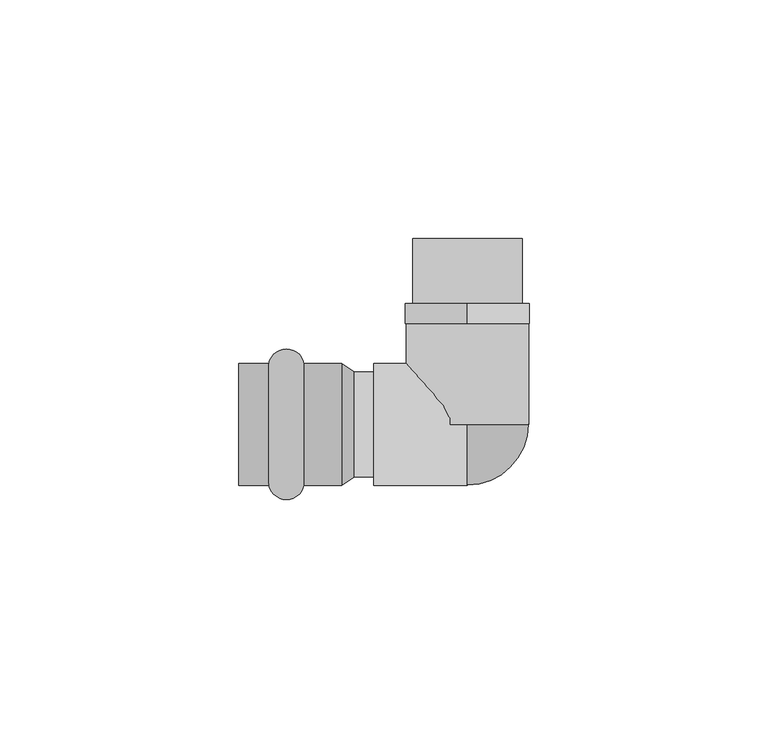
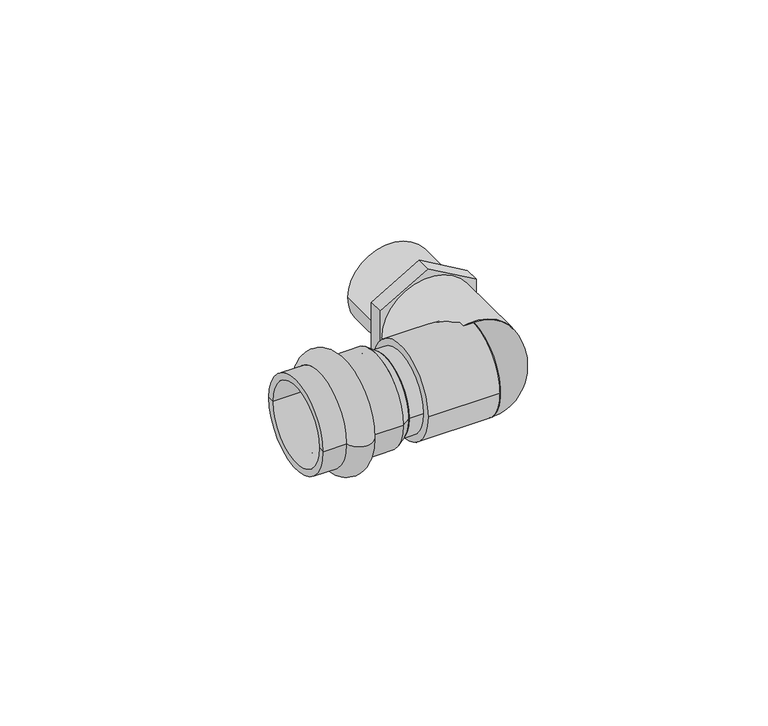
"""IFC4 building model written with IfcOpenShell, lengths in millimetres: pipe fitting geometry, VALTEC_VTi.953.I_Угольник с переходом на наружную резьбу нержавеющая сталь : VTi.953.I."""

from ifc_helpers import new_model, si_unit, point, frame, origin, origin_2d, place, context, project, spatial, polyline, circle_curve, ellipse_curve, trimmed, segment, composite_curve, outline, extrude, source, transform, mapped, element, save
from ifc_brep_helpers import plane_surface, cylinder_surface, revolved_surface, advanced_brep


def pipe_fitting_8c2fd16f(model_context):
    return source(origin(), model_context, "Body", "SolidModel", [
        advanced_brep(
        [(-41.6242346, -12.8, 0.0), (-41.6242346, 12.8, 0.0), (-34.2757654, 12.8, 0.0), (-34.2757654, -12.8, 0.0), (-48.0, -12.8, 0.0), (-48.0, 12.8, 0.0), (-48.0, -11.0, 0.0), (-48.0, 11.0, 0.0), (-26.4, -11.0, 0.0), (-26.4, 11.0, 0.0), (-26.4, -12.8, 0.0), (-26.4, 12.8, 0.0)],
        [
            (0, 1, circle_curve(frame((-41.6242346, 0.0, 0.0), z_axis=(1.0, 0.0, 0.0), x_axis=(0.0, 1.0, 0.0)), 12.8)),
            (1, 2, circle_curve(frame((-37.95, 12.05, 0.0), z_axis=(0.0, 0.0, -1.0), x_axis=(1.0, 0.0, 0.0)), 3.75)),
            (2, 3, circle_curve(frame((-34.2757654, 0.0, 0.0), z_axis=(-1.0, 0.0, 0.0), x_axis=(0.0, 1.0, 0.0)), 12.8)),
            (3, 0, circle_curve(frame((-37.95, -12.05, 0.0), z_axis=(0.0, 0.0, -1.0), x_axis=(1.0, 0.0, 0.0)), 3.75)),
            (1, 0, circle_curve(frame((-41.6242346, 0.0, 0.0), z_axis=(1.0, 0.0, 0.0), x_axis=(0.0, 1.0, 0.0)), 12.8)),
            (3, 2, circle_curve(frame((-34.2757654, 0.0, 0.0), z_axis=(-1.0, 0.0, 0.0), x_axis=(0.0, 1.0, 0.0)), 12.8)),
            (4, 5, circle_curve(frame((-48.0, 0.0, 0.0), z_axis=(1.0, 0.0, 0.0), x_axis=(0.0, 1.0, 0.0)), 12.8)),
            (5, 1),
            (0, 4),
            (5, 4, circle_curve(frame((-48.0, 0.0, 0.0), z_axis=(1.0, 0.0, 0.0), x_axis=(0.0, 1.0, 0.0)), 12.8)),
            (6, 7, circle_curve(frame((-48.0, 0.0, 0.0), z_axis=(1.0, 0.0, 0.0), x_axis=(0.0, 1.0, 0.0)), 11.0)),
            (7, 5),
            (4, 6),
            (7, 6, circle_curve(frame((-48.0, 0.0, 0.0), z_axis=(1.0, 0.0, 0.0), x_axis=(0.0, 1.0, 0.0)), 11.0)),
            (8, 9, circle_curve(frame((-26.4, 0.0, 0.0), z_axis=(1.0, 0.0, 0.0), x_axis=(0.0, 1.0, 0.0)), 11.0)),
            (9, 7),
            (6, 8),
            (9, 8, circle_curve(frame((-26.4, 0.0, 0.0), z_axis=(1.0, 0.0, 0.0), x_axis=(0.0, 1.0, 0.0)), 11.0)),
            (10, 11, circle_curve(frame((-26.4, 0.0, 0.0), z_axis=(1.0, 0.0, 0.0), x_axis=(0.0, 1.0, 0.0)), 12.8)),
            (11, 9),
            (8, 10),
            (11, 10, circle_curve(frame((-26.4, 0.0, 0.0), z_axis=(1.0, 0.0, 0.0), x_axis=(0.0, 1.0, 0.0)), 12.8)),
            (2, 11),
            (10, 3),
        ],
        [
            revolved_surface(trimmed(ellipse_curve(frame((-37.95, 12.05, 0.0), z_axis=(0.0, 0.0, 1.0), x_axis=(1.0, 0.0, 0.0)), 3.75, 3.75), [point((-34.2757654, 12.8, 0.0))], [point((-41.6242346, 12.8, 0.0))], True, "CARTESIAN"), (-51.5364426, 0.0, 0.0), (-1.0, 0.0, 0.0)),
            cylinder_surface(frame((-51.5364426, 0.0, 0.0), z_axis=(-1.0, 0.0, 0.0), x_axis=(0.0, 1.0, 0.0)), 12.8),
            plane_surface(frame((-48.0, 0.0, 0.0), z_axis=(-1.0, 0.0, 0.0), x_axis=(0.0, 1.0, 0.0))),
            revolved_surface(polyline([(-48.0, 11.0, 0.0), (-26.4, 11.0, 0.0)]), (-51.5364426, 0.0, 0.0), (-1.0, 0.0, 0.0)),
            plane_surface(frame((-26.4, 0.0, 0.0), z_axis=(1.0, 0.0, 0.0), x_axis=(0.0, 1.0, 0.0))),
        ],
        [
            (0, [[1, 2, 3, 4]]),
            (0, [[5, -4, 6, -2]]),
            (1, [[7, 8, -1, 9]]),
            (1, [[10, -9, -5, -8]]),
            (2, [[11, 12, -7, 13]]),
            (2, [[14, -13, -10, -12]]),
            (3, [[15, 16, -11, 17]]),
            (3, [[18, -17, -14, -16]]),
            (4, [[19, 20, -15, 21]]),
            (4, [[22, -21, -18, -20]]),
            (1, [[-3, 23, -19, 24]]),
            (1, [[-6, -24, -22, -23]]),
        ],
    ),
        extrude(outline(composite_curve([segment(trimmed(circle_curve(origin_2d(), 11.5), [point((0.0, -11.5))], [point((0.0, 11.5))], False, "CARTESIAN"), True, "CONTINUOUS"), segment(trimmed(circle_curve(origin_2d(), 11.5), [point((0.0, 11.5))], [point((0.0, -11.5))], False, "CARTESIAN"), True, "CONTINUOUS")], self_intersect=False), holes=[composite_curve([segment(trimmed(circle_curve(origin_2d(), 10.0), [point((0.0, -10.0))], [point((0.0, 10.0))], True, "CARTESIAN"), True, "CONTINUOUS"), segment(trimmed(circle_curve(origin_2d(), 10.0), [point((0.0, 10.0))], [point((0.0, -10.0))], True, "CARTESIAN"), True, "CONTINUOUS")], self_intersect=False)]), frame((0.0, 25.2857143, 0.0), z_axis=(0.0, 1.0, 0.0), x_axis=(0.0, 0.0, 1.0)), (0.0, 0.0, 1.0), 13.7142857),
        extrude(outline(polyline([(15.011107, 0.0), (7.5055535, -13.0), (-7.5055535, -13.0), (-15.011107, 0.0), (-7.5055535, 13.0), (7.5055535, 13.0), (15.011107, 0.0)]), holes=[composite_curve([segment(trimmed(circle_curve(origin_2d(), 10.0), [point((0.0, -10.0))], [point((0.0, 10.0))], True, "CARTESIAN"), True, "CONTINUOUS"), segment(trimmed(circle_curve(origin_2d(), 10.0), [point((0.0, 10.0))], [point((0.0, -10.0))], True, "CARTESIAN"), True, "CONTINUOUS")], self_intersect=False)]), frame((0.0, 21.1714286, 0.0), z_axis=(0.0, 1.0, 0.0), x_axis=(0.0, 0.0, 1.0)), (0.0, 0.0, 1.0), 4.1142857),
        extrude(outline(composite_curve([segment(trimmed(circle_curve(origin_2d(), 12.8), [point((0.0, -12.8))], [point((0.0, 12.8))], False, "CARTESIAN"), True, "CONTINUOUS"), segment(trimmed(circle_curve(origin_2d(), 12.8), [point((0.0, 12.8))], [point((0.0, -12.8))], False, "CARTESIAN"), True, "CONTINUOUS")], self_intersect=False)), frame((0.0, 0.0, 0.0), z_axis=(0.0, 1.0, 0.0), x_axis=(0.0, 0.0, 1.0)), (0.0, 0.0, 1.0), 21.1714286),
        advanced_brep(
        [(0.0, 0.0, -12.8), (0.0, 0.0, 12.8)],
        [
            (0, 1, circle_curve(frame((0.0, 0.0, 0.0), z_axis=(-1.0, 0.0, 0.0), x_axis=(0.0, -1.0, 0.0)), 12.8)),
            (1, 0),
            (1, 0, circle_curve(frame((0.0, 0.0, 0.0), z_axis=(0.0, 1.0, 0.0), x_axis=(1.0, 0.0, 0.0)), 12.8)),
        ],
        [
            plane_surface(frame((0.0, 0.0, 19.8086047), z_axis=(-1.0, 0.0, 0.0), x_axis=(0.0, -1.0, 0.0))),
            plane_surface(frame((0.0, 0.0, 19.8086047), z_axis=(0.0, 1.0, 0.0), x_axis=(1.0, 0.0, 0.0))),
            revolved_surface(trimmed(ellipse_curve(frame((0.0, 0.0, 0.0), z_axis=(-1.0, 0.0, 0.0), x_axis=(0.0, -1.0, 0.0)), 12.8, 12.8), [point((0.0, 0.0, -12.8))], [point((0.0, 0.0, 12.8))], True, "CARTESIAN"), (0.0, 0.0, 19.8086047), (0.0, 0.0, 1.0)),
        ],
        [
            (0, [[1, 2]]),
            (1, [[3, -2]]),
            (2, [[-1, -3]]),
        ],
    ),
        extrude(outline(composite_curve([segment(trimmed(circle_curve(origin_2d(), 12.8), [point((-12.8, 0.0))], [point((12.8, 0.0))], False, "CARTESIAN"), True, "CONTINUOUS"), segment(trimmed(circle_curve(origin_2d(), 12.8), [point((12.8, 0.0))], [point((-12.8, 0.0))], False, "CARTESIAN"), True, "CONTINUOUS")], self_intersect=False)), frame((-19.6390217, 0.0, 0.0), z_axis=(1.0, 0.0, 0.0), x_axis=(0.0, 1.0, 0.0)), (0.0, 0.0, 1.0), 19.6390217),
        extrude(outline(composite_curve([segment(trimmed(circle_curve(origin_2d(), 11.0), [point((-11.0, 0.0))], [point((11.0, 0.0))], False, "CARTESIAN"), True, "CONTINUOUS"), segment(trimmed(circle_curve(origin_2d(), 11.0), [point((11.0, 0.0))], [point((-11.0, 0.0))], False, "CARTESIAN"), True, "CONTINUOUS")], self_intersect=False)), frame((-23.76, 0.0, 0.0), z_axis=(1.0, 0.0, 0.0), x_axis=(0.0, 1.0, 0.0)), (0.0, 0.0, 1.0), 4.1209783),
        advanced_brep(
        [(-26.4, -12.8, 0.0), (-26.4, 12.8, 0.0), (-23.76, -11.0, 0.0), (-23.76, 11.0, 0.0)],
        [
            (0, 1, circle_curve(frame((-26.4, 0.0, 0.0), z_axis=(-1.0, 0.0, 0.0), x_axis=(0.0, -1.0, 0.0)), 12.8)),
            (1, 0, circle_curve(frame((-26.4, 0.0, 0.0), z_axis=(-1.0, 0.0, 0.0), x_axis=(0.0, 1.0, 0.0)), 12.8)),
            (2, 3, circle_curve(frame((-23.76, 0.0, 0.0), z_axis=(1.0, 0.0, 0.0), x_axis=(0.0, 1.0, 0.0)), 11.0)),
            (3, 2, circle_curve(frame((-23.76, 0.0, 0.0), z_axis=(1.0, 0.0, 0.0), x_axis=(0.0, -1.0, 0.0)), 11.0)),
            (2, 0),
            (1, 3),
        ],
        [
            plane_surface(frame((-26.4, 0.0, 0.0), z_axis=(-1.0, 0.0, 0.0), x_axis=(0.0, 0.0, -1.0))),
            plane_surface(frame((-23.76, 0.0, 0.0), z_axis=(1.0, 0.0, 0.0), x_axis=(0.0, 0.0, -1.0))),
            revolved_surface(polyline([(-23.76, -10.999999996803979, 0.0), (-26.4, -12.8, 0.0)]), (-7.6266667, 0.0, 0.0), (-1.0, 0.0, 0.0)),
            revolved_surface(polyline([(-23.76, 10.999999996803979, 0.0), (-26.4, 12.8, 0.0)]), (-7.6266667, 0.0, 0.0), (-1.0, 0.0, 0.0)),
        ],
        [
            (0, [[1, 2]]),
            (1, [[3, 4]]),
            (2, [[-3, 5, -2, 6]]),
            (3, [[-4, -6, -1, -5]]),
        ],
    ),
    ])


if __name__ == "__main__":
    model = new_model("IFC4")
    model_context = context("Model", 3, world=origin())
    ifc_project = project(units=[si_unit("LENGTHUNIT", "METRE", prefix="MILLI")], contexts=[model_context])
    site = spatial("IfcSite", under=ifc_project)
    building = spatial("IfcBuilding", under=site)
    placement = place(None, origin())
    pipe_fitting_shape = pipe_fitting_8c2fd16f(model_context)
    element("IfcPipeFitting", 1, ObjectType="VALTEC_VTi.953.I_Угольник с переходом на наружную резьбу нержавеющая сталь : VTi.953.I", at=placement, inside=building, context=model_context, shape_type="MappedRepresentation", body=[
        mapped(pipe_fitting_shape, transform((0.0, 0.0, 0.0), x_axis=(1.0, 0.0, 0.0), y_axis=(0.0, 1.0, 0.0), z_axis=(0.0, 0.0, 1.0))),
    ])
    save(model, "model.ifc")
